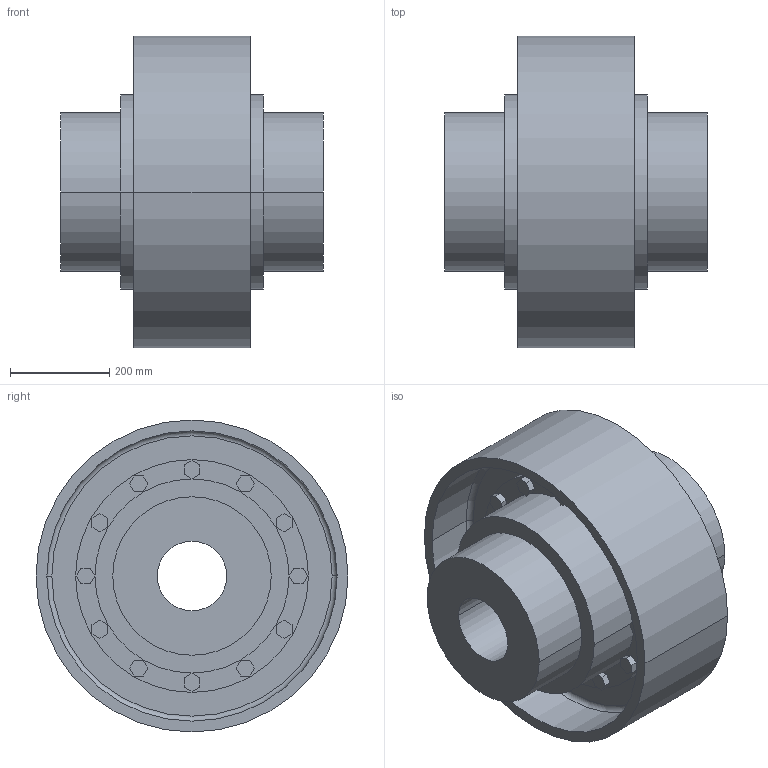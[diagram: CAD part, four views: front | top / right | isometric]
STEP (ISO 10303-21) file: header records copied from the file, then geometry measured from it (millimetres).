
FILE_DESCRIPTION((''),'2;1');
FILE_NAME('A19110100-0_ASM','2018-11-12T',('AB_Roschiwal'),('RENK AG'),'PRO/ENGINEER BY PARAMETRIC TECHNOLOGY CORPORATION, 2015440','PRO/ENGINEER BY PARAMETRIC TECHNOLOGY CORPORATION, 2015440','');
FILE_SCHEMA(('CONFIG_CONTROL_DESIGN'));
Length unit declared in the file: millimetre
Products named in the file (4): LBKD200_GEHAEUSE; LBKD200_NABE; LBKD200_BREMSSCHEIBE; A19110100-0_ASM
Assembly tree (4 placements, depth 2):
  A19110100-0_ASM
    LBKD200_GEHAEUSE
    LBKD200_NABE  x2
    LBKD200_BREMSSCHEIBE
Bounding box: 530 x 630 x 630 mm (x, y, z)
Volume: 57733213 mm3; surface area: 3416342.2 mm2
Topology: 4 solids, 4 shells, 292 faces, 704 edges, 468 vertices
Faces by surface type: plane 200, cylinder 88, torus 4
Entity records: 8356 total; most frequent: DIRECTION 1424, CARTESIAN_POINT 1420, ORIENTED_EDGE 1360, EDGE_CURVE 680, VECTOR 512, LINE 512, AXIS2_PLACEMENT_3D 456, VERTEX_POINT 452
